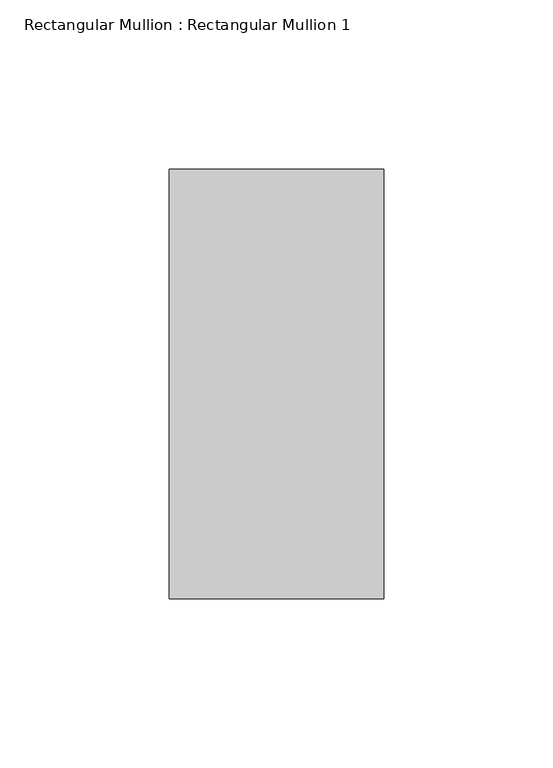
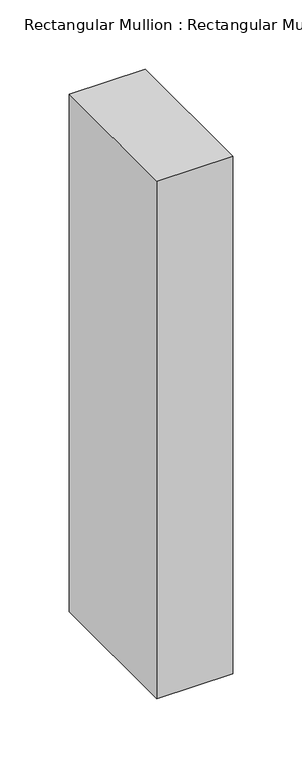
"""IFC4 building model written with IfcOpenShell, lengths in millimetres: member geometry, Rectangular Mullion : Rectangular Mullion 1."""

from ifc_helpers import new_model, si_unit, frame, origin, place, context, project, spatial, polyline, outline, extrude, source, transform, mapped, element, save


def rectangular_mullion_rectangular_mullion_1_1da01dff(model_context):
    return source(origin(), model_context, "Body", "SweptSolid", [
        extrude(outline(polyline([(31.75, 63.5), (31.75, -63.5), (-31.75, -63.5), (-31.75, 63.5), (31.75, 63.5)])), frame((0.0, 0.0, -457.1999997), z_axis=(0.0, 0.0, 1.0), x_axis=(1.0, 0.0, 0.0)), (0.0, 0.0, 1.0), 457.1999997),
    ])


if __name__ == "__main__":
    model = new_model("IFC4")
    model_context = context("Model", 3, world=origin())
    ifc_project = project(units=[si_unit("LENGTHUNIT", "METRE", prefix="MILLI")], contexts=[model_context])
    site = spatial("IfcSite", under=ifc_project)
    building = spatial("IfcBuilding", under=site)
    placement = place(None, origin())
    rectangular_mullion_rectangular_mullion_1_shape = rectangular_mullion_rectangular_mullion_1_1da01dff(model_context)
    element("IfcMember", 1, ObjectType="Rectangular Mullion : Rectangular Mullion 1", at=placement, inside=building, context=model_context, shape_type="MappedRepresentation", body=[
        mapped(rectangular_mullion_rectangular_mullion_1_shape, transform((0.0, 0.0, 0.0), x_axis=(1.0, 0.0, 0.0), y_axis=(0.0, 1.0, 0.0), z_axis=(0.0, 0.0, 1.0))),
    ])
    save(model, "model.ifc")
